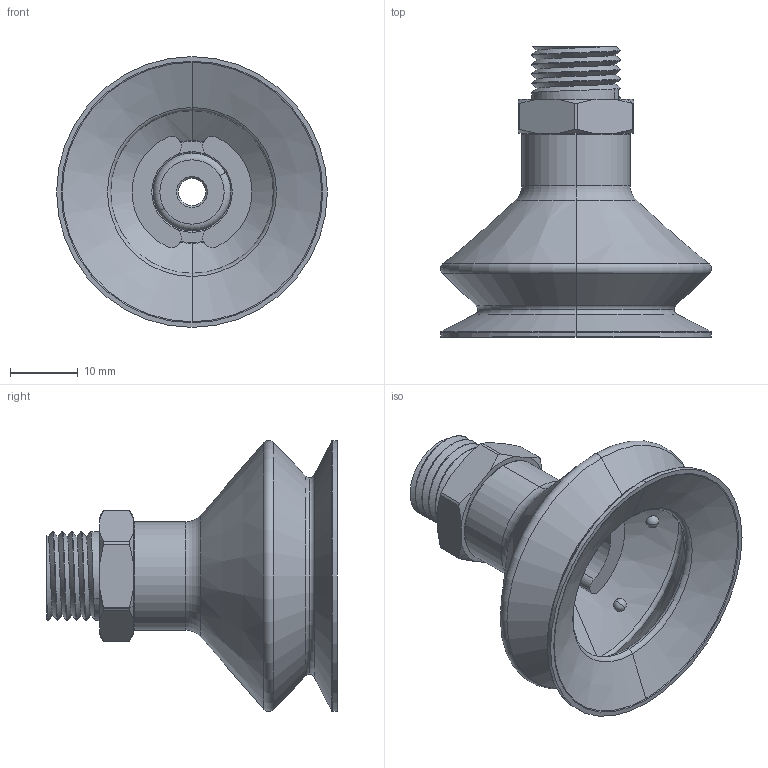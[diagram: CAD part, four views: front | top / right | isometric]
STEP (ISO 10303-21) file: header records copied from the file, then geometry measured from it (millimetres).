
FILE_DESCRIPTION (( 'STEP AP203' ), '1' );
FILE_NAME ('8SB 40--M14.STEP', '2018-07-09T08:02:48', ( '' ), ( '' ), 'SwSTEP 2.0', 'SolidWorks 2016', '' );
FILE_SCHEMA (( 'CONFIG_CONTROL_DESIGN' ));
Length unit declared in the file: millimetre
Products named in the file (1): 8SB 40--M14
Bounding box: 39.96 x 42.87 x 39.96 mm (x, y, z)
Volume: 10580.5 mm3; surface area: 8899.2 mm2
Topology: 2 solids, 2 shells, 142 faces, 338 edges, 210 vertices
Faces by surface type: cylinder 46, torus 33, cone 30, plane 19, sphere 12, bspline 2
Entity records: 5316 total; most frequent: CARTESIAN_POINT 1963, DIRECTION 731, ORIENTED_EDGE 676, EDGE_CURVE 338, AXIS2_PLACEMENT_3D 324, VERTEX_POINT 210, CIRCLE 183, EDGE_LOOP 156
